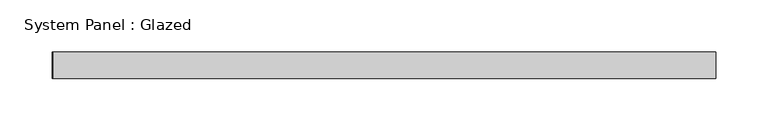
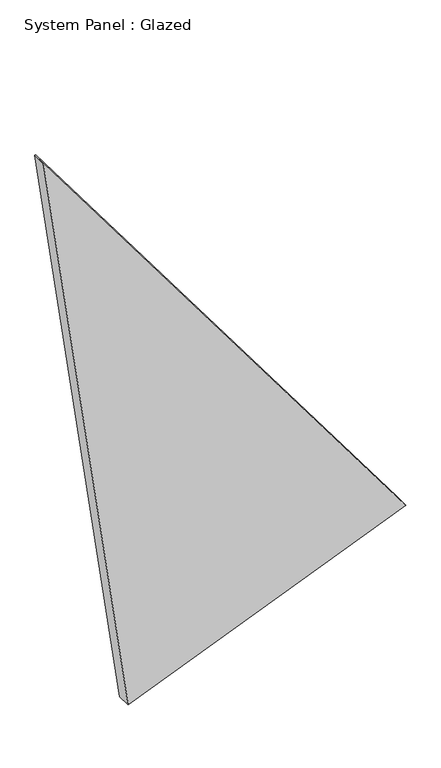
"""IFC4 building model written with IfcOpenShell, lengths in millimetres: plate geometry, System Panel : Glazed."""

from ifc_helpers import new_model, si_unit, frame, origin, place, context, project, spatial, polyline, outline, extrude, source, transform, mapped, element, save


def system_panel_glazed_c3d1ce98(model_context):
    return source(origin(), model_context, "Body", "SweptSolid", [
        extrude(outline(polyline([(0.0, -169.0256633), (199.5983556, 317.6477276), (1054.3183553, -316.48452), (1053.8412914, -317.6477276), (0.0, -169.0256633)])), frame((0.0, -44.45, 0.0), z_axis=(0.0, 1.0, 0.0), x_axis=(0.0, 0.0, 1.0)), (0.0, 0.0, 1.0), 25.4),
    ])


if __name__ == "__main__":
    model = new_model("IFC4")
    model_context = context("Model", 3, world=origin())
    ifc_project = project(units=[si_unit("LENGTHUNIT", "METRE", prefix="MILLI")], contexts=[model_context])
    site = spatial("IfcSite", under=ifc_project)
    building = spatial("IfcBuilding", under=site)
    placement = place(None, origin())
    system_panel_glazed_shape = system_panel_glazed_c3d1ce98(model_context)
    element("IfcPlate", 1, ObjectType="System Panel : Glazed", at=placement, inside=building, context=model_context, shape_type="MappedRepresentation", body=[
        mapped(system_panel_glazed_shape, transform((0.0, 0.0, 0.0), x_axis=(1.0, 0.0, 0.0), y_axis=(0.0, 1.0, 0.0), z_axis=(0.0, 0.0, 1.0))),
    ])
    save(model, "model.ifc")
